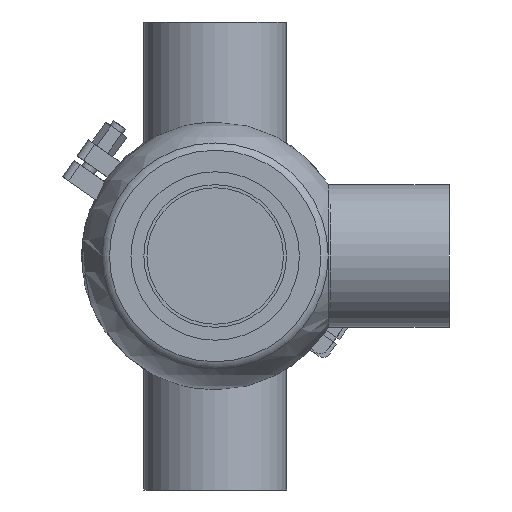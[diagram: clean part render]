
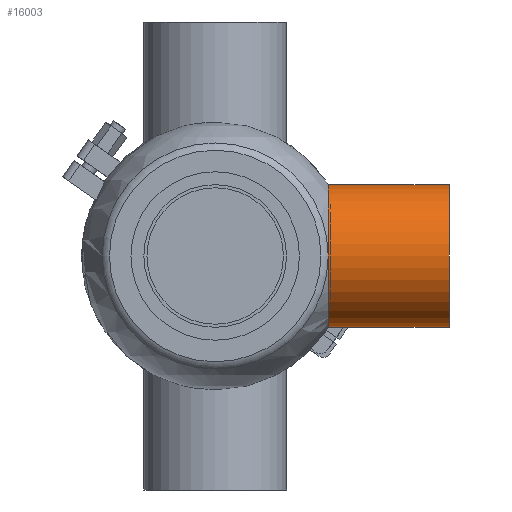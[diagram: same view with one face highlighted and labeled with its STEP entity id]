
A CAD part, front view. The second image highlights one B-rep face of the part: STEP entity #16003.
In plain terms, the highlighted cylindrical face has radius 38.1 mm (diameter 76.2 mm), a full revolution.
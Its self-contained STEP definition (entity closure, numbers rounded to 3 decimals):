
#636 = DIRECTION ( 'NONE',  ( -1., 0., 0. ) ) ;
#1738 = ORIENTED_EDGE ( 'NONE', *, *, #11984, .T. ) ;
#2111 = AXIS2_PLACEMENT_3D ( 'NONE', #6127, #15973, #2545 ) ;
#2137 = CYLINDRICAL_SURFACE ( 'NONE', #19470, 38.1 ) ;
#2248 = DIRECTION ( 'NONE',  ( 0., 0., 1. ) ) ;
#2545 = DIRECTION ( 'NONE',  ( 0., 0., 1. ) ) ;
#6127 = CARTESIAN_POINT ( 'NONE',  ( 125., 0., 0. ) ) ;
#6164 = CARTESIAN_POINT ( 'NONE',  ( 60.503, 0., 38.1 ) ) ;
#7460 = FACE_OUTER_BOUND ( 'NONE', #15594, .T. ) ;
#10697 = CARTESIAN_POINT ( 'NONE',  ( 0., 0., 0. ) ) ;
#11284 = VERTEX_POINT ( 'NONE', #15906 ) ;
#11768 = EDGE_CURVE ( 'NONE', #17865, #17865, #20787, .T. ) ;
#11984 = EDGE_CURVE ( 'NONE', #11284, #11284, #20105, .T. ) ;
#14514 = DIRECTION ( 'NONE',  ( 1., 0., 0. ) ) ;
#15442 = FACE_OUTER_BOUND ( 'NONE', #21166, .T. ) ;
#15594 = EDGE_LOOP ( 'NONE', ( #17094 ) ) ;
#15906 = CARTESIAN_POINT ( 'NONE',  ( 125., 0., 38.1 ) ) ;
#15973 = DIRECTION ( 'NONE',  ( -1., 0., 0. ) ) ;
#16003 = ADVANCED_FACE ( 'NONE', ( #7460, #15442 ), #2137, .T. ) ;
#17094 = ORIENTED_EDGE ( 'NONE', *, *, #11768, .T. ) ;
#17637 = DIRECTION ( 'NONE',  ( 0., 0., 1. ) ) ;
#17865 = VERTEX_POINT ( 'NONE', #6164 ) ;
#19034 = AXIS2_PLACEMENT_3D ( 'NONE', #20899, #14514, #17637 ) ;
#19470 = AXIS2_PLACEMENT_3D ( 'NONE', #10697, #636, #2248 ) ;
#20105 = CIRCLE ( 'NONE', #2111, 38.1 ) ;
#20787 = CIRCLE ( 'NONE', #19034, 38.1 ) ;
#20899 = CARTESIAN_POINT ( 'NONE',  ( 60.503, 0., 0. ) ) ;
#21166 = EDGE_LOOP ( 'NONE', ( #1738 ) ) ;
